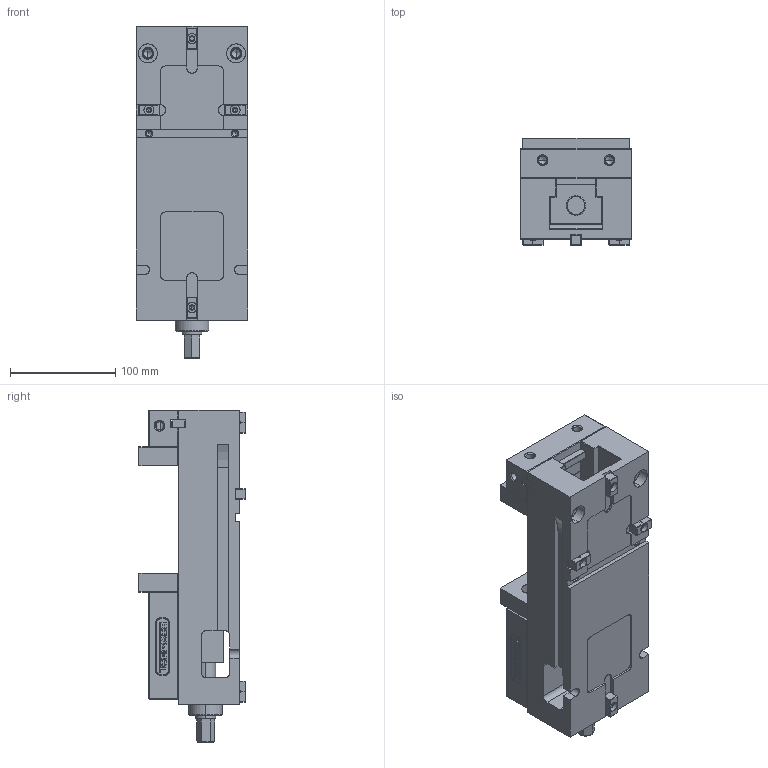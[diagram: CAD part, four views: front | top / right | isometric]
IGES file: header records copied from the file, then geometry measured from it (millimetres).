
Start section: SolidWorks IGES file using analytic representation for surfaces
Global section: file name: \\tormach-dc\Published Documents\Drawings\Files saved as other types\Solid_Models\MODELS FOR PUBLIC\35285A 4-INCH CNC VISE.IGS; native system: SolidWorks 2014; preprocessor: SolidWorks 2014; author: rtooley; date: 160526.143714; units: millimetre
Bounding box: 106 x 102 x 316 mm (x, y, z)
Surface area: 281367.3 mm2 (no closed solid volume)
Topology: 0 solids, 0 shells, 1140 faces, 12143 edges, 12121 vertices
Faces by surface type: bspline 960, revolution 180
